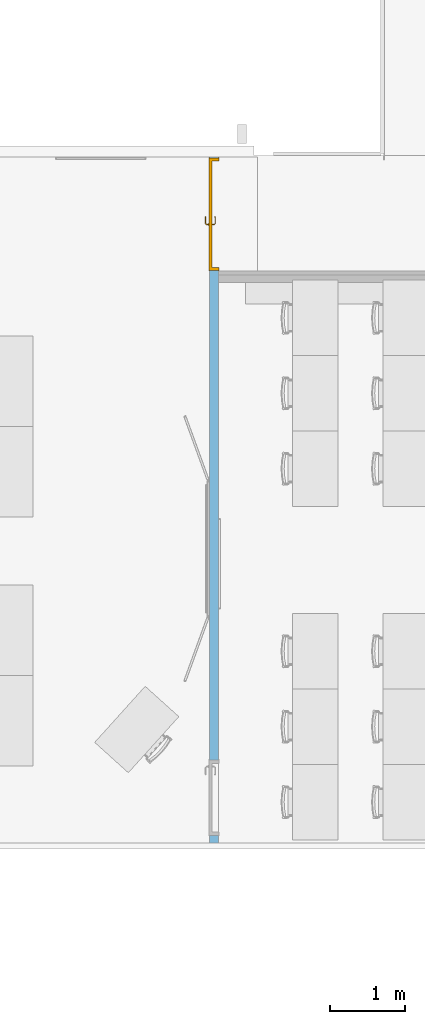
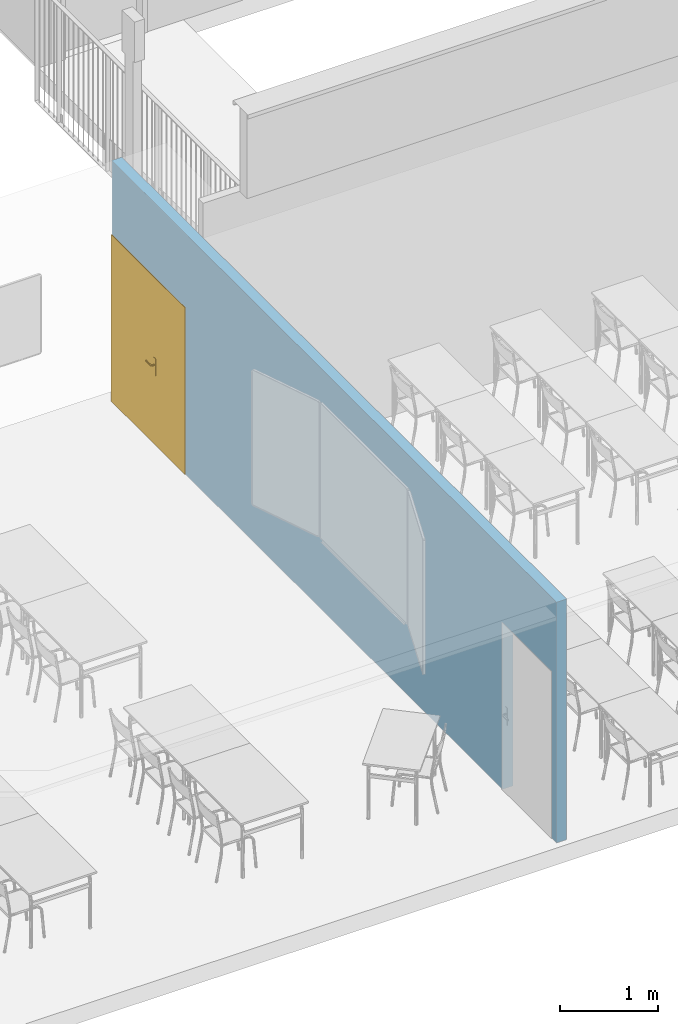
# One storey, part 32 of 44: 1 door, 2 openings, plus 1 element that does not belong to this part.
"""IFC2X3 building model written with IfcOpenShell, lengths in centimetres."""

from ifc_helpers import new_model, entity, si_unit, converted_unit, derived_unit, direction, frame, frame_2d, origin, place, context, subcontext, project, spatial, rectangle, extrude, faceted_brep, source, transform, mapped, material, material_list, layer, layer_set, layer_usage, type_object, type_shapes, element, fill, save


model = new_model("IFC2X3")

# Units and contexts
model_context = context("Model", 3, precision=0.001, world=origin(), true_north=direction((6.12303176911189e-17, 1.0)))
body_context = subcontext(model_context, "Body", "Model", "MODEL_VIEW")
ifc_project = project(units=[si_unit("LENGTHUNIT", "METRE", prefix="CENTI"), si_unit("AREAUNIT", "SQUARE_METRE"), si_unit("VOLUMEUNIT", "CUBIC_METRE"), converted_unit("PLANEANGLEUNIT", "DEGREE", entity("IfcRatioMeasure", 0.0174532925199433), si_unit("PLANEANGLEUNIT", "RADIAN"), dimensions=[0, 0, 0, 0, 0, 0, 0]), si_unit("MASSUNIT", "GRAM", prefix="KILO"), si_unit("TIMEUNIT", "SECOND"), si_unit("FREQUENCYUNIT", "HERTZ"), si_unit("THERMODYNAMICTEMPERATUREUNIT", "DEGREE_CELSIUS"), derived_unit("THERMALTRANSMITTANCEUNIT", [(si_unit("MASSUNIT", "GRAM", prefix="KILO"), 1), (si_unit("THERMODYNAMICTEMPERATUREUNIT", "KELVIN"), -1), (si_unit("TIMEUNIT", "SECOND"), -3)]), derived_unit("VOLUMETRICFLOWRATEUNIT", [(si_unit("LENGTHUNIT", "METRE"), 3), (si_unit("TIMEUNIT", "SECOND"), -1)]), si_unit("ELECTRICCURRENTUNIT", "AMPERE"), si_unit("ELECTRICVOLTAGEUNIT", "VOLT"), si_unit("POWERUNIT", "WATT"), si_unit("FORCEUNIT", "NEWTON", prefix="KILO"), si_unit("ILLUMINANCEUNIT", "LUX"), si_unit("LUMINOUSFLUXUNIT", "LUMEN"), si_unit("LUMINOUSINTENSITYUNIT", "CANDELA"), derived_unit("USERDEFINED", [(si_unit("MASSUNIT", "GRAM", prefix="KILO"), -1), (si_unit("LENGTHUNIT", "METRE"), -2), (si_unit("TIMEUNIT", "SECOND"), 3), (si_unit("LUMINOUSFLUXUNIT", "LUMEN"), 1)]), derived_unit("LINEARVELOCITYUNIT", [(si_unit("LENGTHUNIT", "METRE"), 1), (si_unit("TIMEUNIT", "SECOND"), -1)]), si_unit("PRESSUREUNIT", "PASCAL"), derived_unit("USERDEFINED", [(si_unit("LENGTHUNIT", "METRE"), -2), (si_unit("MASSUNIT", "GRAM", prefix="KILO"), 1), (si_unit("TIMEUNIT", "SECOND"), -2)])], contexts=[model_context])

# Site, building, storey
site_placement = place(None, frame((8.62739174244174, -249.285249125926, 0.0)))
site = spatial("IfcSite", under=ifc_project, at=site_placement, Name="Default", CompositionType="ELEMENT")
building_placement = place(site_placement, origin())
building = spatial("IfcBuilding", under=site, at=building_placement, CompositionType="ELEMENT")
storey_placement = place(building_placement, frame((0.0, 0.0, 343.0)))
storey = spatial("IfcBuildingStorey", under=building, at=storey_placement, Name="R+1", CompositionType="ELEMENT", Elevation=343.0)

# Wall, openings, door
ifc_material_1 = material(Name="Plâtre")
ifc_layer = layer(ifc_material_1, 12.0)
ifc_layer_set = layer_set([ifc_layer], Name="Mur de base:PLA 12")
ifc_layer_usage = layer_usage(ifc_layer_set, "AXIS2", "NEGATIVE", 6.0)
wall_type = type_object("IfcWallType", Name="Mur de base:PLA 12", PredefinedType="STANDARD", material=ifc_layer_set)
wall_placement = place(storey_placement, frame((797.905471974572, 931.0, 0.0), z_axis=(0.0, 0.0, 1.0), x_axis=(0.0, -1.0, 0.0)))
wall = element("IfcWallStandardCase", 1, at=wall_placement, inside=storey, type_object=wall_type, material=ifc_layer_usage, Name="Mur de base:PLA 12", ObjectType="Mur de base:PLA 12", context=body_context, shape_type="SweptSolid", body=[
    extrude(rectangle(XDim=909.0, YDim=12.0000000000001, at=frame_2d((454.5, 2.22044604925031e-14), x_axis=(-1.0, 0.0))), origin(), (0.0, 0.0, 1.0), 300.0),
])
opening_1_placement = place(wall_placement, frame((899.0, 6.0, 0.0)))
element("IfcOpeningElement", 2, at=opening_1_placement, cuts=wall, Name="Simple(R)_bois_mu:93 x 204 cm:1", ObjectType="Opening", context=body_context, shape_type="SweptSolid", body=[
    extrude(rectangle(XDim=207.499999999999, YDim=99.9999999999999, at=frame_2d((103.749999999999, 50.0), x_axis=(1.0, 0.0))), frame((0.0, 0.0, 0.0), z_axis=(0.0, -1.0, 0.0), x_axis=(0.0, 0.0, 1.0)), (0.0, 0.0, 1.0), 12.0),
])
opening_2_placement = place(wall_placement, frame((150.0, 6.0, 0.0)))
opening_2 = element("IfcOpeningElement", 3, at=opening_2_placement, cuts=wall, Name="Tierce(R)_bois_mu:143 x 204 cm:1", ObjectType="Opening", context=body_context, shape_type="SweptSolid", body=[
    extrude(rectangle(XDim=206.999999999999, YDim=149.0, at=frame_2d((103.499999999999, 74.4999999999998), x_axis=(1.0, 0.0))), frame((0.0, 0.0, 0.0), z_axis=(0.0, -1.0, 0.0), x_axis=(0.0, 0.0, 1.0)), (0.0, 0.0, 1.0), 12.0),
])
ifc_material_2 = material(Name="Aluminium-Dorma Metal-Anodized Silver")
ifc_material_3 = material(Name="Porte - Cadre")
ifc_material_4 = material(Name="Porte - Panneau")
ifc_material_list_1 = material_list([ifc_material_2, ifc_material_3, ifc_material_4])
ifc_material_list_2 = material_list([ifc_material_2, ifc_material_3, ifc_material_4])
door_style = type_object("IfcDoorStyle", Name="143 x 204 cm", ConstructionType="NOTDEFINED", OperationType="NOTDEFINED", ParameterTakesPrecedence=False, Sizeable=False, material=ifc_material_list_2)
shared_shape = source(origin(), body_context, "Body", "Brep", [
    faceted_brep([(88.7025298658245, 3.69999999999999, 100.778044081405), (88.2974701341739, 3.69999999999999, 100.778044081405), (87.8999999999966, 3.69999999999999, 100.699999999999), (87.8999999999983, 3.69999999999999, 99.3000000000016), (88.2974701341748, 3.69999999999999, 99.2219559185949), (88.7025298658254, 3.69999999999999, 99.2219559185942), (89.1000000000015, 3.69999999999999, 99.2999999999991), (89.1000000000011, 3.69999999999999, 100.699999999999), (87.8999999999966, 5.94852045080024, 100.699999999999), (87.8999999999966, 5.94852045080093, 99.3000000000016), (88.2974701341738, 6.1131579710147, 100.778044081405), (88.7025298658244, 6.2809392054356, 100.778044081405), (87.0838906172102, 7.89957845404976, 100.778044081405), (86.9161093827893, 7.49451872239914, 100.778044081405), (78.5793122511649, 7.49451872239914, 100.778044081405), (78.411531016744, 7.89957845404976, 100.778044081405), (77.6451046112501, 7.13315204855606, 100.778044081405), (77.9315250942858, 6.84673156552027, 100.778044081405), (89.1000000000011, 6.44557672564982, 100.699999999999), (89.1000000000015, 6.44557672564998, 99.2999999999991), (88.7025298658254, 6.28093920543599, 99.2219559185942), (88.2974701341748, 6.11315797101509, 99.2219559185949), (86.9161093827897, 7.49451872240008, 99.2219559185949), (87.0838906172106, 7.8995784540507, 99.2219559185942), (78.4115310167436, 7.8995784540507, 99.2219559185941), (78.5793122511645, 7.49451872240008, 99.2219559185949), (77.9315250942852, 6.84673156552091, 99.2219559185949), (77.6451046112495, 7.1331520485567, 99.2219559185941), (86.7514718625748, 7.09704858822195, 100.699999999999), (86.7514718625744, 7.09704858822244, 99.3000000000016), (87.2485281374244, 8.29704858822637, 100.699999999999), (87.2485281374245, 8.29704858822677, 99.2999999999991), (82.7477108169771, 7.09704858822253, 100.699999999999), (78.7439497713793, 7.09704858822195, 100.699999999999), (78.7439497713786, 7.09704858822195, 99.3000000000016), (82.7477108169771, 7.09704858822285, 99.3000000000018), (82.7477108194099, 7.71249275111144, 100.787811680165), (82.2399422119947, 8.29704858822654, 100.699999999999), (78.2468934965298, 8.29704858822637, 100.699999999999), (83.2554791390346, 8.29704858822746, 99.2999999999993), (78.2468934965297, 8.29704858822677, 99.2999999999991), (82.7477107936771, 7.71249274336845, 99.2121883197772), (77.3640507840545, 7.41420587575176, 100.699999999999), (77.364050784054, 7.41420587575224, 99.2999999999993), (78.2125789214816, 6.56567773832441, 99.3000000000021), (78.2125789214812, 6.56567773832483, 100.699999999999)], [[[0, 1, 2, 3, 4, 5, 6, 7]], [[8, 9, 3, 2]], [[1, 10, 8, 2]], [[1, 0, 11, 12, 13, 10]], [[14, 15, 16, 17]], [[7, 18, 11, 0]], [[18, 7, 6, 19]], [[6, 5, 20, 19]], [[5, 4, 21, 22, 23, 20]], [[24, 25, 26, 27]], [[4, 3, 9, 21]], [[28, 29, 9, 8]], [[8, 10, 13, 28]], [[18, 30, 12, 11]], [[31, 30, 18, 19]], [[19, 20, 23, 31]], [[21, 9, 29, 22]], [[29, 28, 32, 33, 34, 35]], [[36, 32, 13]], [[37, 38, 15]], [[37, 12, 30]], [[36, 12, 37]], [[14, 32, 36]], [[36, 15, 14]], [[28, 13, 32]], [[32, 14, 33]], [[12, 36, 13]], [[15, 36, 37]], [[30, 31, 39, 40, 38, 37]], [[23, 41, 39]], [[24, 39, 41]], [[39, 31, 23]], [[39, 24, 40]], [[22, 35, 41]], [[41, 23, 22]], [[41, 35, 25]], [[35, 22, 29]], [[34, 25, 35]], [[24, 41, 25]], [[17, 16, 42, 43, 27, 26, 44, 45]], [[45, 44, 34, 33]], [[33, 14, 17, 45]], [[15, 38, 42, 16]], [[43, 42, 38, 40]], [[24, 27, 43, 40]], [[34, 44, 26, 25]]]),
    faceted_brep([(88.2974701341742, -1.30000000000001, 100.778044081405), (88.7025298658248, -1.30000000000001, 100.778044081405), (89.1000000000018, -1.30000000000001, 100.699999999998), (89.1000000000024, -1.30000000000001, 99.2999999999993), (88.7025298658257, -1.30000000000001, 99.2219559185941), (88.297470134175, -1.30000000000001, 99.2219559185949), (87.899999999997, -1.30000000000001, 99.3000000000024), (87.8999999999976, -1.30000000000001, 100.699999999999), (88.7025298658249, -3.90045754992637, 100.778044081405), (89.100000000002, -4.06509507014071, 100.699999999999), (88.2974701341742, -3.73267631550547, 100.778044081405), (86.9298602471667, -5.10028620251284, 100.778044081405), (87.0976414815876, -5.50534593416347, 100.778044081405), (78.4142453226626, -5.50534593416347, 100.778044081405), (78.5820265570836, -5.10028620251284, 100.778044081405), (77.9342394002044, -4.4524990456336, 100.778044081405), (77.6478189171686, -4.73891952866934, 100.778044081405), (87.8999999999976, -3.56803879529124, 100.699999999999), (87.899999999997, -3.56803879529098, 99.3000000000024), (88.297470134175, -3.7326763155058, 99.2219559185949), (88.7025298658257, -3.9004575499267, 99.2219559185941), (87.097641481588, -5.50534593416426, 99.2219559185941), (86.9298602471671, -5.10028620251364, 99.2219559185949), (78.5820265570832, -5.10028620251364, 99.2219559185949), (78.4142453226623, -5.50534593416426, 99.2219559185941), (77.6478189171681, -4.73891952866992, 99.2219559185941), (77.9342394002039, -4.45249904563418, 99.2219559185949), (89.1000000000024, -4.06509507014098, 99.2999999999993), (87.2622790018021, -5.90281606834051, 100.699999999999), (86.7652227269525, -4.70281606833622, 100.699999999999), (86.7652227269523, -4.70281606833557, 99.3000000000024), (87.2622790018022, -5.90281606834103, 99.2999999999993), (82.7559433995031, -5.31828027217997, 100.787811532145), (83.269230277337, -5.90281606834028, 100.699999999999), (78.2496078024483, -5.90281606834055, 100.699999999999), (82.755943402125, -4.70281606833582, 100.699999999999), (78.7466640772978, -4.70281606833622, 100.699999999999), (82.7559436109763, -4.70281606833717, 99.3000000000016), (78.7466640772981, -4.70281606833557, 99.3000000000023), (82.7559434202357, -5.31828027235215, 99.2121884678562), (82.2426572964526, -5.90281606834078, 99.2999999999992), (78.249607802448, -5.90281606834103, 99.2999999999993), (78.2152932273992, -4.17144521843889, 99.3000000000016), (77.366765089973, -5.01997335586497, 99.2999999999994), (77.3667650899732, -5.01997335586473, 100.699999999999), (78.2152932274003, -4.17144521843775, 100.699999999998)], [[[0, 1, 2, 3, 4, 5, 6, 7]], [[2, 1, 8, 9]], [[1, 0, 10, 11, 12, 8]], [[13, 14, 15, 16]], [[0, 7, 17, 10]], [[18, 17, 7, 6]], [[5, 19, 18, 6]], [[5, 4, 20, 21, 22, 19]], [[23, 24, 25, 26]], [[3, 27, 20, 4]], [[9, 27, 3, 2]], [[9, 8, 12, 28]], [[10, 17, 29, 11]], [[30, 29, 17, 18]], [[18, 19, 22, 30]], [[20, 27, 31, 21]], [[28, 31, 27, 9]], [[12, 32, 33]], [[13, 33, 32]], [[33, 28, 12]], [[33, 13, 34]], [[11, 35, 32]], [[32, 12, 11]], [[32, 35, 14]], [[35, 11, 29]], [[36, 14, 35]], [[13, 32, 14]], [[29, 30, 37, 38, 36, 35]], [[39, 37, 22]], [[40, 41, 24]], [[40, 21, 31]], [[39, 21, 40]], [[23, 37, 39]], [[39, 24, 23]], [[30, 22, 37]], [[37, 23, 38]], [[21, 39, 22]], [[24, 39, 40]], [[31, 28, 33, 34, 41, 40]], [[42, 26, 25, 43, 44, 16, 15, 45]], [[13, 16, 44, 34]], [[36, 45, 15, 14]], [[42, 45, 36, 38]], [[38, 23, 26, 42]], [[24, 41, 43, 25]], [[44, 43, 41, 34]]]),
    faceted_brep([(88.4999999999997, 3.19999999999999, 86.4641016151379), (89.5352761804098, 3.19999999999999, 86.6003983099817), (90.4999999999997, 3.19999999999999, 87.0), (90.4999999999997, 3.19999999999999, 108.0), (89.5352761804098, 3.19999999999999, 108.399601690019), (88.4999999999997, 3.19999999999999, 108.535898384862), (87.4647238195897, 3.19999999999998, 108.399601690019), (86.4999999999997, 3.19999999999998, 108.0), (86.4999999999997, 3.19999999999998, 87.0), (87.4647238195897, 3.19999999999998, 86.6003983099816), (88.4999999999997, 3.69999999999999, 108.535898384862), (89.5352761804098, 3.69999999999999, 108.399601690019), (90.4999999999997, 3.69999999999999, 108.0), (90.4999999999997, 3.69999999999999, 87.0), (89.5352761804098, 3.69999999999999, 86.6003983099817), (88.4999999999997, 3.69999999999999, 86.4641016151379), (87.4647238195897, 3.69999999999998, 86.6003983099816), (86.4999999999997, 3.69999999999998, 87.0), (86.4999999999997, 3.69999999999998, 108.0), (87.4647238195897, 3.69999999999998, 108.399601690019)], [[[0, 1, 2, 3, 4, 5, 6, 7, 8, 9]], [[10, 11, 12, 13, 14, 15, 16, 17, 18, 19]], [[6, 19, 18, 7]], [[5, 10, 19, 6]], [[4, 11, 10, 5]], [[4, 3, 12, 11]], [[12, 3, 2, 13]], [[1, 14, 13, 2]], [[0, 15, 14, 1]], [[9, 16, 15, 0]], [[9, 8, 17, 16]], [[17, 8, 7, 18]]]),
    faceted_brep([(88.4999999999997, -1.30000000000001, 86.4641016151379), (89.5352761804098, -1.30000000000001, 86.6003983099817), (90.4999999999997, -1.3, 87.0), (90.4999999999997, -1.3, 108.0), (89.5352761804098, -1.30000000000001, 108.399601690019), (88.4999999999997, -1.30000000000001, 108.535898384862), (87.4647238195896, -1.30000000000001, 108.399601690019), (86.4999999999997, -1.30000000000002, 108.0), (86.4999999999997, -1.30000000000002, 87.0), (87.4647238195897, -1.30000000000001, 86.6003983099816), (90.4999999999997, -0.800000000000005, 108.0), (90.4999999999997, -0.800000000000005, 87.0), (89.5352761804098, -0.800000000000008, 86.6003983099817), (88.4999999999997, -0.800000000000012, 86.4641016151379), (87.4647238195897, -0.800000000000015, 86.6003983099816), (86.4999999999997, -0.800000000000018, 87.0), (86.4999999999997, -0.800000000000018, 108.0), (87.4647238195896, -0.800000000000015, 108.399601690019), (88.4999999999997, -0.800000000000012, 108.535898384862), (89.5352761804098, -0.800000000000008, 108.399601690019)], [[[0, 1, 2, 3, 4, 5, 6, 7, 8, 9]], [[10, 11, 12, 13, 14, 15, 16, 17, 18, 19]], [[1, 12, 11, 2]], [[0, 13, 12, 1]], [[9, 14, 13, 0]], [[9, 8, 15, 14]], [[15, 8, 7, 16]], [[6, 17, 16, 7]], [[5, 18, 17, 6]], [[4, 19, 18, 5]], [[4, 3, 10, 19]], [[10, 3, 2, 11]]]),
    faceted_brep([(0.0, 0.0, 0.0), (0.0, 12.0, 0.0), (-1.0, 12.0, 0.0), (-1.0, 12.8000000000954, 0.0), (4.0, 12.8000000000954, 0.0), (4.0, 3.2, 0.0), (3.0, 3.2, 0.0), (3.0, -0.799999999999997, 0.0), (-1.0, -0.799999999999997, 0.0), (-1.0, 0.0, 0.0), (0.0, 0.0, 207.0), (0.0, 12.0, 207.0), (149.0, 12.0, 207.0), (149.0, 12.0, 0.0), (150.0, 12.0, 0.0), (150.0, 12.0, 208.0), (-1.0, 12.0, 208.0), (-1.0, 12.8000000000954, 208.0), (150.0, 12.8000000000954, 208.0), (150.0, 12.8000000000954, 0.0), (145.0, 12.8000000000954, 0.0), (145.0, 12.8000000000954, 203.0), (4.0, 12.8000000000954, 203.0), (4.0, 3.2, 203.0), (145.0, 3.2, 203.0), (145.0, 3.2, 0.0), (146.0, 3.2, 0.0), (146.0, 3.2, 204.0), (3.0, 3.2, 204.0), (3.0, -0.799999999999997, 204.0), (146.0, -0.799999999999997, 204.0), (146.0, -0.799999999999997, 0.0), (150.0, -0.799999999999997, 0.0), (150.0, -0.799999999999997, 208.0), (-1.0, -0.799999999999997, 208.0), (-1.0, 0.0, 208.0), (150.0, 0.0, 208.0), (150.0, 0.0, 0.0), (149.0, 0.0, 0.0), (149.0, 0.0, 207.0)], [[[0, 1, 2, 3, 4, 5, 6, 7, 8, 9]], [[1, 0, 10, 11]], [[2, 1, 11, 12, 13, 14, 15, 16]], [[3, 2, 16, 17]], [[4, 3, 17, 18, 19, 20, 21, 22]], [[5, 4, 22, 23]], [[6, 5, 23, 24, 25, 26, 27, 28]], [[7, 6, 28, 29]], [[8, 7, 29, 30, 31, 32, 33, 34]], [[9, 8, 34, 35]], [[0, 9, 35, 36, 37, 38, 39, 10]], [[12, 39, 38, 13]], [[38, 37, 32, 31, 26, 25, 20, 19, 14, 13]], [[18, 15, 14, 19]], [[24, 21, 20, 25]], [[30, 27, 26, 31]], [[36, 33, 32, 37]], [[11, 10, 39, 12]], [[17, 16, 15, 18]], [[23, 22, 21, 24]], [[29, 28, 27, 30]], [[35, 34, 33, 36]]]),
    faceted_brep([(146.0, -0.799999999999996, 204.0), (94.0, -0.799999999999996, 204.0), (94.0, -0.799999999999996, 0.0), (146.0, -0.799999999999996, 0.0), (146.0, 3.2, 204.0), (146.0, 3.2, 0.0), (94.0, 3.2, 0.0), (94.0, 3.2, 204.0)], [[[0, 1, 2, 3]], [[4, 5, 6, 7]], [[1, 0, 4, 7]], [[2, 1, 7, 6]], [[3, 2, 6, 5]], [[0, 3, 5, 4]]]),
    faceted_brep([(3.0, -0.799999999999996, 0.0), (94.0, -0.799999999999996, 0.0), (94.0, -0.799999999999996, 204.0), (3.0, -0.799999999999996, 204.0), (3.0, 3.2, 0.0), (3.0, 3.2, 204.0), (94.0, 3.2, 204.0), (94.0, 3.2, 0.0)], [[[0, 1, 2, 3]], [[4, 5, 6, 7]], [[1, 0, 4, 7]], [[2, 1, 7, 6]], [[3, 2, 6, 5]], [[0, 3, 5, 4]]]),
])
type_shapes(door_style, [shared_shape])
door_placement = place(opening_2_placement, frame((-149.0, -12.0, 0.0)))
door = element("IfcDoor", 4, at=door_placement, inside=storey, type_object=door_style, material=ifc_material_list_1, Name="Tierce(R)_bois_mu:143 x 204 cm", ObjectType="143 x 204 cm", OverallHeight=206.999999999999, OverallWidth=149.0, context=body_context, shape_type="MappedRepresentation", body=[
    mapped(shared_shape, transform((0.0, 0.0, 0.0), scale=1.0)),
])
fill(opening_2, door)

save(model, "model.ifc")
